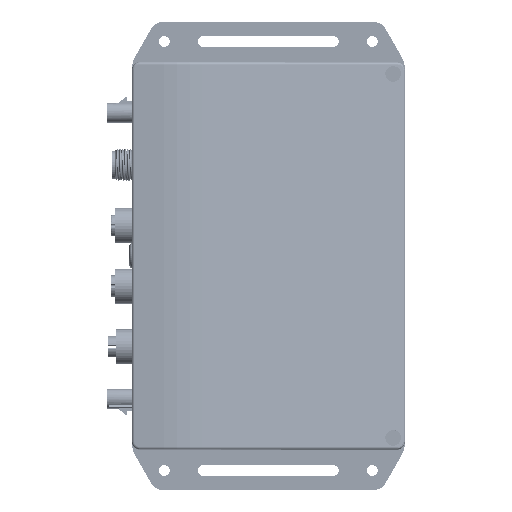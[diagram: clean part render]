
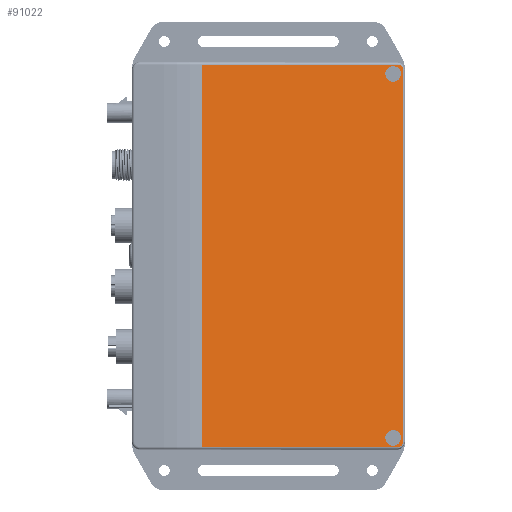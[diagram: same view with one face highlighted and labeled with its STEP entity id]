
A CAD part, top view. The second image highlights one B-rep face of the part: STEP entity #91022.
In plain terms, the highlighted planar face has unit normal (0.362, 0, 0.932).
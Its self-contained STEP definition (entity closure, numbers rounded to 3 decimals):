
#320=ELLIPSE('',#113406,3.218,3.);
#321=ELLIPSE('',#113408,3.218,3.);
#323=ELLIPSE('',#113423,2.145,2.);
#324=ELLIPSE('',#113436,2.145,2.);
#4776=FACE_BOUND('',#21021,.T.);
#4777=FACE_BOUND('',#21022,.T.);
#15262=FACE_OUTER_BOUND('',#21020,.T.);
#21020=EDGE_LOOP('',(#83501,#83502,#83503,#83504,#83505,#83506));
#21021=EDGE_LOOP('',(#83507));
#21022=EDGE_LOOP('',(#83508));
#28298=LINE('',#242258,#35588);
#28307=LINE('',#242319,#35597);
#28308=LINE('',#242322,#35598);
#28311=LINE('',#242333,#35601);
#35588=VECTOR('',#141620,10.);
#35597=VECTOR('',#141661,10.);
#35598=VECTOR('',#141666,10.);
#35601=VECTOR('',#141683,10.);
#44195=VERTEX_POINT('',#242189);
#44196=VERTEX_POINT('',#242193);
#44205=VERTEX_POINT('',#242246);
#44207=VERTEX_POINT('',#242250);
#44208=VERTEX_POINT('',#242256);
#44214=VERTEX_POINT('',#242301);
#44215=VERTEX_POINT('',#242303);
#44219=VERTEX_POINT('',#242318);
#57292=EDGE_CURVE('',#44195,#44195,#320,.T.);
#57294=EDGE_CURVE('',#44196,#44196,#321,.T.);
#57310=EDGE_CURVE('',#44207,#44205,#323,.T.);
#57313=EDGE_CURVE('',#44208,#44207,#28298,.T.);
#57323=EDGE_CURVE('',#44214,#44215,#324,.T.);
#57331=EDGE_CURVE('',#44215,#44219,#28307,.T.);
#57333=EDGE_CURVE('',#44205,#44214,#28308,.T.);
#57339=EDGE_CURVE('',#44219,#44208,#28311,.T.);
#83501=ORIENTED_EDGE('',*,*,#57310,.F.);
#83502=ORIENTED_EDGE('',*,*,#57313,.F.);
#83503=ORIENTED_EDGE('',*,*,#57339,.F.);
#83504=ORIENTED_EDGE('',*,*,#57331,.F.);
#83505=ORIENTED_EDGE('',*,*,#57323,.F.);
#83506=ORIENTED_EDGE('',*,*,#57333,.F.);
#83507=ORIENTED_EDGE('',*,*,#57292,.T.);
#83508=ORIENTED_EDGE('',*,*,#57294,.T.);
#85993=PLANE('',#113452);
#91022=ADVANCED_FACE('',(#15262,#4776,#4777),#85993,.T.);
#113406=AXIS2_PLACEMENT_3D('',#242191,#141570,#141571);
#113408=AXIS2_PLACEMENT_3D('',#242195,#141575,#141576);
#113423=AXIS2_PLACEMENT_3D('',#242252,#141611,#141612);
#113436=AXIS2_PLACEMENT_3D('',#242304,#141643,#141644);
#113452=AXIS2_PLACEMENT_3D('',#242335,#141685,#141686);
#141570=DIRECTION('center_axis',(-0.362,0.,-0.932));
#141571=DIRECTION('ref_axis',(0.932,0.,-0.362));
#141575=DIRECTION('center_axis',(-0.362,0.,-0.932));
#141576=DIRECTION('ref_axis',(0.932,0.,-0.362));
#141611=DIRECTION('center_axis',(-0.362,0.,-0.932));
#141612=DIRECTION('ref_axis',(0.932,0.,-0.362));
#141620=DIRECTION('',(0.932,0.,-0.362));
#141643=DIRECTION('center_axis',(-0.362,0.,-0.932));
#141644=DIRECTION('ref_axis',(0.932,0.,-0.362));
#141661=DIRECTION('',(-0.932,0.,0.362));
#141666=DIRECTION('',(0.,-1.,0.));
#141683=DIRECTION('',(0.,1.,0.));
#141685=DIRECTION('center_axis',(0.362,0.,0.932));
#141686=DIRECTION('ref_axis',(0.932,0.,-0.362));
#242189=CARTESIAN_POINT('',(97.5,144.5,-26.088));
#242191=CARTESIAN_POINT('Origin',(100.5,144.5,-27.253));
#242193=CARTESIAN_POINT('',(97.5,4.5,-26.088));
#242195=CARTESIAN_POINT('Origin',(100.5,4.5,-27.253));
#242246=CARTESIAN_POINT('',(104.362,146.,-28.752));
#242250=CARTESIAN_POINT('',(102.362,148.,-27.976));
#242252=CARTESIAN_POINT('Origin',(102.362,146.,-27.976));
#242256=CARTESIAN_POINT('',(26.984,148.,1.288));
#242258=CARTESIAN_POINT('',(37.242,148.,-2.694));
#242301=CARTESIAN_POINT('',(104.362,3.,-28.752));
#242303=CARTESIAN_POINT('',(102.362,1.,-27.976));
#242304=CARTESIAN_POINT('Origin',(102.362,3.,-27.976));
#242318=CARTESIAN_POINT('',(26.984,1.,1.288));
#242319=CARTESIAN_POINT('',(37.242,1.,-2.694));
#242322=CARTESIAN_POINT('',(104.362,0.,-28.752));
#242333=CARTESIAN_POINT('',(26.984,0.,1.288));
#242335=CARTESIAN_POINT('Origin',(20.,0.,4.));
